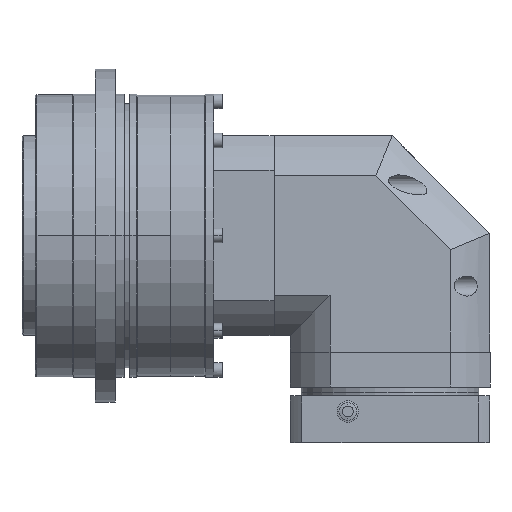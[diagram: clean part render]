
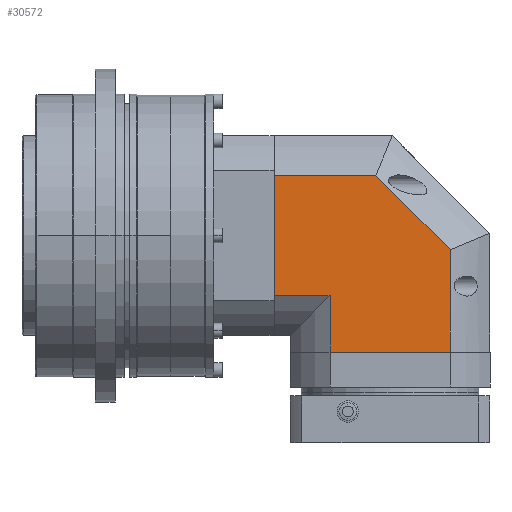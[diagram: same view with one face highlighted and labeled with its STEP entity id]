
A CAD part, top view. The second image highlights one B-rep face of the part: STEP entity #30572.
In plain terms, the highlighted planar face has unit normal (0, 0, 1).
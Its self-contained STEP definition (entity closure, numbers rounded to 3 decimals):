
#336 = CARTESIAN_POINT ( 'NONE',  ( 93., 54.083, 90. ) ) ;
#819 = CARTESIAN_POINT ( 'NONE',  ( 143.417, -54.083, 90. ) ) ;
#875 = DIRECTION ( 'NONE',  ( -1., 0., 0. ) ) ;
#1310 = VERTEX_POINT ( 'NONE', #29070 ) ;
#1935 = LINE ( 'NONE', #30280, #26502 ) ;
#2053 = EDGE_CURVE ( 'NONE', #21839, #1310, #5257, .T. ) ;
#2225 = EDGE_CURVE ( 'NONE', #18493, #10554, #25658, .T. ) ;
#2500 = VECTOR ( 'NONE', #26175, 1000. ) ;
#2809 = VERTEX_POINT ( 'NONE', #3586 ) ;
#2838 = DIRECTION ( 'NONE',  ( -0.707, 0.707, 0. ) ) ;
#3586 = CARTESIAN_POINT ( 'NONE',  ( 251.583, -12.877, 90. ) ) ;
#4160 = LINE ( 'NONE', #17184, #6850 ) ;
#4760 = ORIENTED_EDGE ( 'NONE', *, *, #2225, .T. ) ;
#5257 = LINE ( 'NONE', #336, #23316 ) ;
#5845 = FACE_OUTER_BOUND ( 'NONE', #7313, .T. ) ;
#6375 = VECTOR ( 'NONE', #21638, 1000. ) ;
#6850 = VECTOR ( 'NONE', #2838, 1000. ) ;
#7313 = EDGE_LOOP ( 'NONE', ( #4760, #30183, #20838, #21035, #14546, #12646, #8238 ) ) ;
#8238 = ORIENTED_EDGE ( 'NONE', *, *, #20622, .F. ) ;
#9131 = EDGE_CURVE ( 'NONE', #2809, #21839, #4160, .T. ) ;
#9458 = VERTEX_POINT ( 'NONE', #15888 ) ;
#10554 = VERTEX_POINT ( 'NONE', #24668 ) ;
#11720 = LINE ( 'NONE', #24063, #6375 ) ;
#12641 = DIRECTION ( 'NONE',  ( -1., 0., 0. ) ) ;
#12646 = ORIENTED_EDGE ( 'NONE', *, *, #23278, .T. ) ;
#14051 = PLANE ( 'NONE',  #30589 ) ;
#14157 = DIRECTION ( 'NONE',  ( 0., 0., 1. ) ) ;
#14546 = ORIENTED_EDGE ( 'NONE', *, *, #2053, .T. ) ;
#14607 = EDGE_CURVE ( 'NONE', #10554, #25373, #27029, .T. ) ;
#14683 = VECTOR ( 'NONE', #14863, 1000. ) ;
#14863 = DIRECTION ( 'NONE',  ( 1., 0., 0. ) ) ;
#15380 = CARTESIAN_POINT ( 'NONE',  ( 251.583, -105., 90. ) ) ;
#15888 = CARTESIAN_POINT ( 'NONE',  ( 93., -54.083, 90. ) ) ;
#16272 = CARTESIAN_POINT ( 'NONE',  ( 251.583, 0., 90. ) ) ;
#17184 = CARTESIAN_POINT ( 'NONE',  ( 251.583, -12.877, 90. ) ) ;
#18421 = CARTESIAN_POINT ( 'NONE',  ( 143.417, 0., 90. ) ) ;
#18493 = VERTEX_POINT ( 'NONE', #819 ) ;
#20474 = LINE ( 'NONE', #16272, #2500 ) ;
#20622 = EDGE_CURVE ( 'NONE', #18493, #9458, #1935, .T. ) ;
#20838 = ORIENTED_EDGE ( 'NONE', *, *, #23866, .T. ) ;
#21035 = ORIENTED_EDGE ( 'NONE', *, *, #9131, .T. ) ;
#21064 = DIRECTION ( 'NONE',  ( 0., -1., 0. ) ) ;
#21543 = CARTESIAN_POINT ( 'NONE',  ( 184.623, 54.083, 90. ) ) ;
#21638 = DIRECTION ( 'NONE',  ( 0., -1., 0. ) ) ;
#21839 = VERTEX_POINT ( 'NONE', #21543 ) ;
#22161 = CARTESIAN_POINT ( 'NONE',  ( 93., -105., 90. ) ) ;
#23278 = EDGE_CURVE ( 'NONE', #1310, #9458, #11720, .T. ) ;
#23316 = VECTOR ( 'NONE', #12641, 1000. ) ;
#23866 = EDGE_CURVE ( 'NONE', #25373, #2809, #20474, .T. ) ;
#24063 = CARTESIAN_POINT ( 'NONE',  ( 93., 90., 90. ) ) ;
#24668 = CARTESIAN_POINT ( 'NONE',  ( 143.417, -105., 90. ) ) ;
#25373 = VERTEX_POINT ( 'NONE', #15380 ) ;
#25658 = LINE ( 'NONE', #18421, #28362 ) ;
#26175 = DIRECTION ( 'NONE',  ( 0., 1., 0. ) ) ;
#26502 = VECTOR ( 'NONE', #875, 1000. ) ;
#27029 = LINE ( 'NONE', #22161, #14683 ) ;
#28362 = VECTOR ( 'NONE', #21064, 1000. ) ;
#29056 = CARTESIAN_POINT ( 'NONE',  ( 93., 0., 90. ) ) ;
#29070 = CARTESIAN_POINT ( 'NONE',  ( 93., 54.083, 90. ) ) ;
#29153 = DIRECTION ( 'NONE',  ( 1., 0., 0. ) ) ;
#30183 = ORIENTED_EDGE ( 'NONE', *, *, #14607, .T. ) ;
#30280 = CARTESIAN_POINT ( 'NONE',  ( 158.294, -54.083, 90. ) ) ;
#30572 = ADVANCED_FACE ( 'NONE', ( #5845 ), #14051, .T. ) ;
#30589 = AXIS2_PLACEMENT_3D ( 'NONE', #29056, #14157, #29153 ) ;
